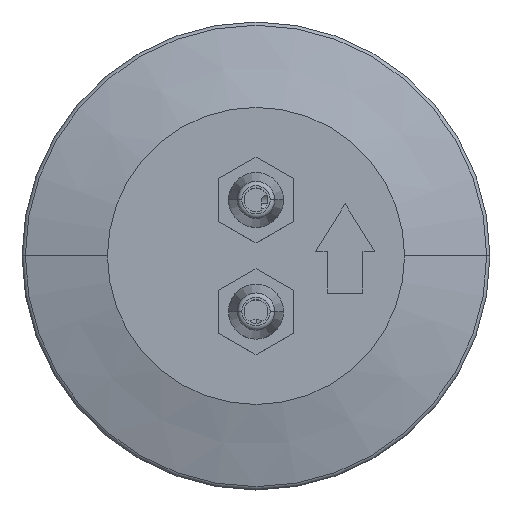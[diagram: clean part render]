
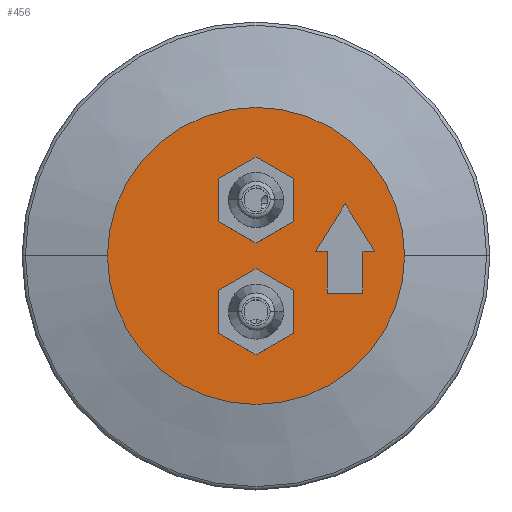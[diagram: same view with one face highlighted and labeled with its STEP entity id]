
A CAD part, top view. The second image highlights one B-rep face of the part: STEP entity #456.
In plain terms, the highlighted planar face has unit normal (0, 0, 1).
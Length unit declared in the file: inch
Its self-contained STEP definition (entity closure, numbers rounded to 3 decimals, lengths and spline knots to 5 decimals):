
#456 = ADVANCED_FACE ( 'NONE', ( #6910, #6918, #6912, #6913 ), #1028, .F. ) ;
#1028 = PLANE ( 'NONE',  #3388 ) ;
#1068 = DIRECTION ( 'NONE',  ( 0., 0., -1. ) ) ;
#1088 = CARTESIAN_POINT ( 'NONE',  ( 0., 0., 0. ) ) ;
#1092 = DIRECTION ( 'NONE',  ( -1., 0., 0. ) ) ;
#1833 = ORIENTED_EDGE ( 'NONE', *, *, #2684, .F. ) ;
#1871 = VERTEX_POINT ( 'NONE', #5361 ) ;
#1878 = VERTEX_POINT ( 'NONE', #5352 ) ;
#1880 = VERTEX_POINT ( 'NONE', #5367 ) ;
#1884 = VERTEX_POINT ( 'NONE', #5382 ) ;
#1886 = VERTEX_POINT ( 'NONE', #5399 ) ;
#1893 = VERTEX_POINT ( 'NONE', #5379 ) ;
#1902 = VERTEX_POINT ( 'NONE', #5383 ) ;
#1910 = VERTEX_POINT ( 'NONE', #5395 ) ;
#1912 = VERTEX_POINT ( 'NONE', #5396 ) ;
#1916 = VERTEX_POINT ( 'NONE', #5389 ) ;
#1924 = VERTEX_POINT ( 'NONE', #5451 ) ;
#1925 = VERTEX_POINT ( 'NONE', #5453 ) ;
#1947 = VERTEX_POINT ( 'NONE', #5425 ) ;
#2669 = EDGE_CURVE ( 'NONE', #1925, #1902, #6991, .T. ) ;
#2674 = EDGE_CURVE ( 'NONE', #1924, #1947, #7009, .T. ) ;
#2678 = EDGE_CURVE ( 'NONE', #1880, #1893, #7012, .T. ) ;
#2681 = EDGE_CURVE ( 'NONE', #1910, #1884, #6993, .T. ) ;
#2683 = EDGE_CURVE ( 'NONE', #1884, #1910, #7044, .T. ) ;
#2684 = EDGE_CURVE ( 'NONE', #1902, #1925, #7029, .T. ) ;
#2687 = EDGE_CURVE ( 'NONE', #1893, #1871, #7068, .T. ) ;
#2691 = EDGE_CURVE ( 'NONE', #1878, #1886, #7052, .T. ) ;
#2700 = EDGE_CURVE ( 'NONE', #1886, #1880, #7073, .T. ) ;
#2705 = EDGE_CURVE ( 'NONE', #1916, #1878, #7017, .T. ) ;
#2715 = EDGE_CURVE ( 'NONE', #1871, #1912, #7051, .T. ) ;
#2717 = EDGE_CURVE ( 'NONE', #1947, #1924, #7022, .T. ) ;
#2718 = EDGE_CURVE ( 'NONE', #1912, #1916, #7055, .T. ) ;
#3388 = AXIS2_PLACEMENT_3D ( 'NONE', #1088, #1068, #1092 ) ;
#3758 = AXIS2_PLACEMENT_3D ( 'NONE', #6172, #6144, #6175 ) ;
#3768 = AXIS2_PLACEMENT_3D ( 'NONE', #5727, #5655, #5694 ) ;
#3777 = AXIS2_PLACEMENT_3D ( 'NONE', #5606, #5632, #5633 ) ;
#3784 = AXIS2_PLACEMENT_3D ( 'NONE', #5787, #5735, #5767 ) ;
#3785 = AXIS2_PLACEMENT_3D ( 'NONE', #5788, #5790, #5815 ) ;
#3791 = AXIS2_PLACEMENT_3D ( 'NONE', #5716, #5659, #5660 ) ;
#4208 = EDGE_LOOP ( 'NONE', ( #4515, #4508 ) ) ;
#4209 = EDGE_LOOP ( 'NONE', ( #4518, #4524 ) ) ;
#4210 = EDGE_LOOP ( 'NONE', ( #4501, #4502, #4497, #4506, #4526, #4527, #4498 ) ) ;
#4223 = EDGE_LOOP ( 'NONE', ( #4509, #1833 ) ) ;
#4497 = ORIENTED_EDGE ( 'NONE', *, *, #2705, .F. ) ;
#4498 = ORIENTED_EDGE ( 'NONE', *, *, #2678, .F. ) ;
#4501 = ORIENTED_EDGE ( 'NONE', *, *, #2700, .F. ) ;
#4502 = ORIENTED_EDGE ( 'NONE', *, *, #2691, .F. ) ;
#4506 = ORIENTED_EDGE ( 'NONE', *, *, #2718, .F. ) ;
#4508 = ORIENTED_EDGE ( 'NONE', *, *, #2683, .T. ) ;
#4509 = ORIENTED_EDGE ( 'NONE', *, *, #2669, .F. ) ;
#4515 = ORIENTED_EDGE ( 'NONE', *, *, #2681, .T. ) ;
#4518 = ORIENTED_EDGE ( 'NONE', *, *, #2674, .F. ) ;
#4524 = ORIENTED_EDGE ( 'NONE', *, *, #2717, .F. ) ;
#4526 = ORIENTED_EDGE ( 'NONE', *, *, #2715, .F. ) ;
#4527 = ORIENTED_EDGE ( 'NONE', *, *, #2687, .F. ) ;
#5352 = CARTESIAN_POINT ( 'NONE',  ( 0.24, -0.125, 0. ) ) ;
#5361 = CARTESIAN_POINT ( 'NONE',  ( 0.3, 0.175, 0. ) ) ;
#5367 = CARTESIAN_POINT ( 'NONE',  ( 0.36, 0.015, 0. ) ) ;
#5379 = CARTESIAN_POINT ( 'NONE',  ( 0.4, 0.015, 0. ) ) ;
#5382 = CARTESIAN_POINT ( 'NONE',  ( 0.5, 0., 0. ) ) ;
#5383 = CARTESIAN_POINT ( 'NONE',  ( -0.105, 0.188, 0. ) ) ;
#5389 = CARTESIAN_POINT ( 'NONE',  ( 0.24, 0.015, 0. ) ) ;
#5395 = CARTESIAN_POINT ( 'NONE',  ( -0.5, 0., 0. ) ) ;
#5396 = CARTESIAN_POINT ( 'NONE',  ( 0.2, 0.015, 0. ) ) ;
#5399 = CARTESIAN_POINT ( 'NONE',  ( 0.36, -0.125, 0. ) ) ;
#5425 = CARTESIAN_POINT ( 'NONE',  ( -0.105, -0.188, 0. ) ) ;
#5451 = CARTESIAN_POINT ( 'NONE',  ( 0.105, -0.188, 0. ) ) ;
#5453 = CARTESIAN_POINT ( 'NONE',  ( 0.105, 0.188, 0. ) ) ;
#5606 = CARTESIAN_POINT ( 'NONE',  ( 0., 0.188, 0. ) ) ;
#5632 = DIRECTION ( 'NONE',  ( 0., 0., 1. ) ) ;
#5633 = DIRECTION ( 'NONE',  ( 1., 0., 0. ) ) ;
#5655 = DIRECTION ( 'NONE',  ( 0., 0., 1. ) ) ;
#5659 = DIRECTION ( 'NONE',  ( 0., 0., 1. ) ) ;
#5660 = DIRECTION ( 'NONE',  ( 1., 0., 0. ) ) ;
#5665 = CARTESIAN_POINT ( 'NONE',  ( 0.4, 0.015, 0. ) ) ;
#5685 = DIRECTION ( 'NONE',  ( 1., 0., 0. ) ) ;
#5694 = DIRECTION ( 'NONE',  ( 1., 0., 0. ) ) ;
#5716 = CARTESIAN_POINT ( 'NONE',  ( 0., 0., 0. ) ) ;
#5727 = CARTESIAN_POINT ( 'NONE',  ( 0., -0.188, 0. ) ) ;
#5735 = DIRECTION ( 'NONE',  ( 0., 0., 1. ) ) ;
#5767 = DIRECTION ( 'NONE',  ( 1., 0., 0. ) ) ;
#5770 = CARTESIAN_POINT ( 'NONE',  ( 0.36, -0.125, 0. ) ) ;
#5772 = DIRECTION ( 'NONE',  ( 1., 0., 0. ) ) ;
#5780 = CARTESIAN_POINT ( 'NONE',  ( 0.3, 0.175, 0. ) ) ;
#5787 = CARTESIAN_POINT ( 'NONE',  ( 0., 0., 0. ) ) ;
#5788 = CARTESIAN_POINT ( 'NONE',  ( 0., 0.188, 0. ) ) ;
#5790 = DIRECTION ( 'NONE',  ( 0., 0., 1. ) ) ;
#5812 = DIRECTION ( 'NONE',  ( -0.53, 0.848, 0. ) ) ;
#5815 = DIRECTION ( 'NONE',  ( 1., 0., 0. ) ) ;
#5817 = CARTESIAN_POINT ( 'NONE',  ( 0.36, 0.015, 0. ) ) ;
#5819 = DIRECTION ( 'NONE',  ( 0., -1., 0. ) ) ;
#5851 = CARTESIAN_POINT ( 'NONE',  ( 0.24, -0.125, 0. ) ) ;
#5894 = DIRECTION ( 'NONE',  ( 0., 1., 0. ) ) ;
#6144 = DIRECTION ( 'NONE',  ( 0., 0., 1. ) ) ;
#6166 = CARTESIAN_POINT ( 'NONE',  ( 0.2, 0.015, 0. ) ) ;
#6169 = DIRECTION ( 'NONE',  ( -0.53, -0.848, 0. ) ) ;
#6172 = CARTESIAN_POINT ( 'NONE',  ( 0., -0.188, 0. ) ) ;
#6173 = CARTESIAN_POINT ( 'NONE',  ( 0.24, 0.015, 0. ) ) ;
#6175 = DIRECTION ( 'NONE',  ( 1., 0., 0. ) ) ;
#6176 = DIRECTION ( 'NONE',  ( 1., 0., 0. ) ) ;
#6910 = FACE_BOUND ( 'NONE', #4210, .T. ) ;
#6912 = FACE_OUTER_BOUND ( 'NONE', #4208, .T. ) ;
#6913 = FACE_BOUND ( 'NONE', #4223, .T. ) ;
#6918 = FACE_BOUND ( 'NONE', #4209, .T. ) ;
#6991 = CIRCLE ( 'NONE', #3777, 0.105 ) ;
#6993 = CIRCLE ( 'NONE', #3791, 0.5 ) ;
#6994 = VECTOR ( 'NONE', #5685, 39.37008 ) ;
#7009 = CIRCLE ( 'NONE', #3768, 0.105 ) ;
#7012 = LINE ( 'NONE', #5665, #6994 ) ;
#7017 = LINE ( 'NONE', #5851, #7033 ) ;
#7022 = CIRCLE ( 'NONE', #3758, 0.105 ) ;
#7023 = VECTOR ( 'NONE', #6176, 39.37008 ) ;
#7024 = VECTOR ( 'NONE', #5772, 39.37008 ) ;
#7027 = VECTOR ( 'NONE', #6169, 39.37008 ) ;
#7029 = CIRCLE ( 'NONE', #3785, 0.105 ) ;
#7033 = VECTOR ( 'NONE', #5819, 39.37008 ) ;
#7044 = CIRCLE ( 'NONE', #3784, 0.5 ) ;
#7051 = LINE ( 'NONE', #6166, #7027 ) ;
#7052 = LINE ( 'NONE', #5770, #7024 ) ;
#7054 = VECTOR ( 'NONE', #5894, 39.37008 ) ;
#7055 = LINE ( 'NONE', #6173, #7023 ) ;
#7068 = LINE ( 'NONE', #5780, #7079 ) ;
#7073 = LINE ( 'NONE', #5817, #7054 ) ;
#7079 = VECTOR ( 'NONE', #5812, 39.37008 ) ;
